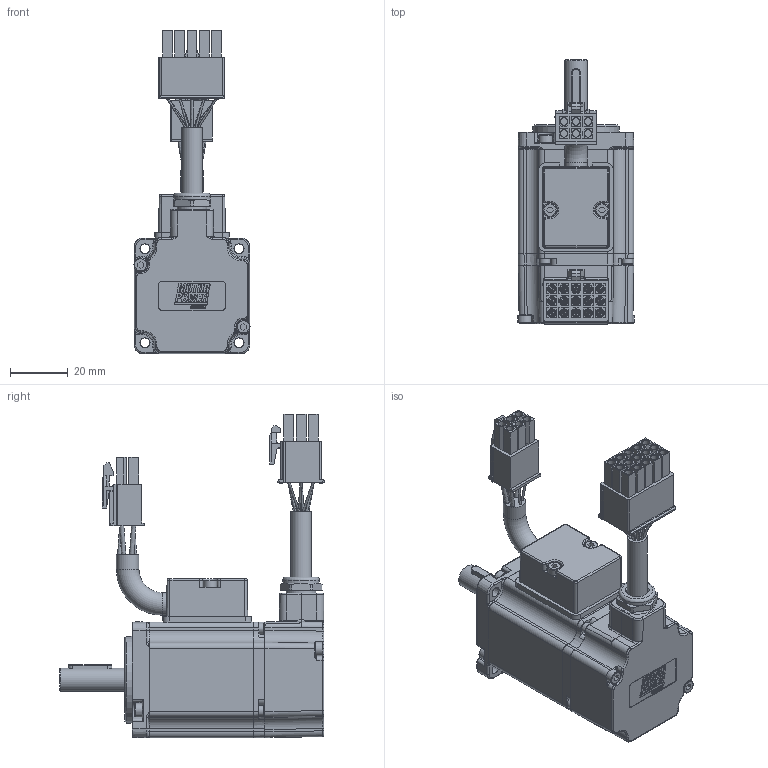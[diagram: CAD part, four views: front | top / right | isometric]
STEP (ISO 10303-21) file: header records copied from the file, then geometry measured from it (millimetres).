
FILE_DESCRIPTION(/* description */ ('Unknown'),/* implementation_level */ '2;1');
FILE_NAME(/* name */ 'TC4-40.1A.xx.x.2.M1.0.x.D2 Q0C913',/* time_stamp */ '2026-03-03T09:56:40+01:00',/* author */ ('Unknown'),/* organization */ ('Unknown'),/* preprocessor_version */ 'ST-DEVELOPER v19.4',/* originating_system */ 'Solid Edge',/* authorisation */ 'Unknown');
FILE_SCHEMA (('AUTOMOTIVE_DESIGN {1 0 10303 214 3 1 1}'));
Products named in the file (23): Q0C913 TC4-40 1A VUOTO; 005113000100; 005911000170; 003103040159; 005123005450; 003107003254; 005007000100_0.5; 005911000274; 003303000025; 005911000185; 001799000503; 005603001004; 003108010154; 005008000998; 003108020616; 003303000709; 005453000452_D7,8; 003108010016_curvo; 005911000598; 003251040602; 003151003109; 005911003776; Albero TC4-40 H 14 M1
Assembly tree (29 placements, depth 3):
  Q0C913 TC4-40 1A VUOTO
    005113000100
    005911000170  x4
    003103040159
    005123005450
    003107003254
    005007000100_0.5
    005911000274
    003303000025
    005911000185  x4
    001799000503
    005603001004
    003108010154
    005008000998
    003108020616
      003303000709
      005453000452_D7,8
      003108010016_curvo
    005911000598  x2
    003251040602
    003151003109
    005911003776
    Albero TC4-40 H 14 M1
Bounding box: 40.2 x 91.49 x 111.95 mm (x, y, z)
Volume: 54821.5 mm3; surface area: 58260.9 mm2
Topology: 31 solids, 31 shells, 2729 faces, 6890 edges, 4431 vertices
Faces by surface type: plane 1629, cylinder 470, bspline 269, torus 164, cone 151, sphere 46
Full cylindrical faces by diameter (mm): 0.314 x1, 0.75 x1, 1.567 x8, 1.6 x1, 1.82 x15, 2 x4, 2.013 x18, 2.3 x4, 2.459 x4, 2.5 x14, 2.6 x21, 2.7 x4, 2.8 x2, 3.8 x4, 4 x4, 4.7 x8, 6 x1, 6.5 x1, 6.8 x1, 7 x1, 7.25 x1, 7.4 x1, 7.8 x2, 8 x1, 8.5 x1, 9.99 x1, 10 x2, 10.3 x2, 10.647 x1, 11 x1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
Entity records: 95027 total; most frequent: CARTESIAN_POINT 24908, ORIENTED_EDGE 12466, DIRECTION 11153, EDGE_CURVE 6233, VERTEX_POINT 4184, LINE 4085, VECTOR 4085, AXIS2_PLACEMENT_3D 3534
